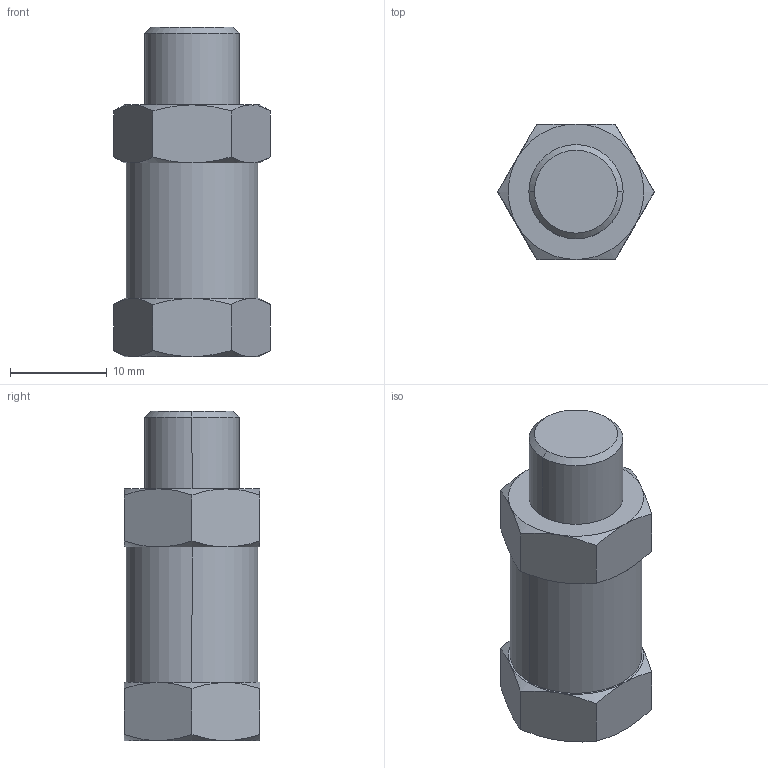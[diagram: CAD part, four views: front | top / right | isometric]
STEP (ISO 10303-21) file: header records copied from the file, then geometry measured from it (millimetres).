
FILE_DESCRIPTION (( 'STEP AP214' ), '1' );
FILE_NAME ('VSVK-G18F.STEP', '2023-01-26T16:36:18', ( '' ), ( '' ), 'SwSTEP 2.0', 'SolidWorks 2018', '' );
FILE_SCHEMA (( 'AUTOMOTIVE_DESIGN' ));
Length unit declared in the file: millimetre
Products named in the file (1): VSVK-G18F
Bounding box: 16.17 x 14 x 34 mm (x, y, z)
Volume: 4107.1 mm3; surface area: 1999.5 mm2
Topology: 1 solids, 1 shells, 54 faces, 116 edges, 67 vertices
Faces by surface type: cone 30, plane 18, cylinder 6
Entity records: 1487 total; most frequent: CARTESIAN_POINT 332, ORIENTED_EDGE 228, DIRECTION 218, EDGE_CURVE 114, AXIS2_PLACEMENT_3D 97, VERTEX_POINT 67, EDGE_LOOP 59, ADVANCED_FACE 54
